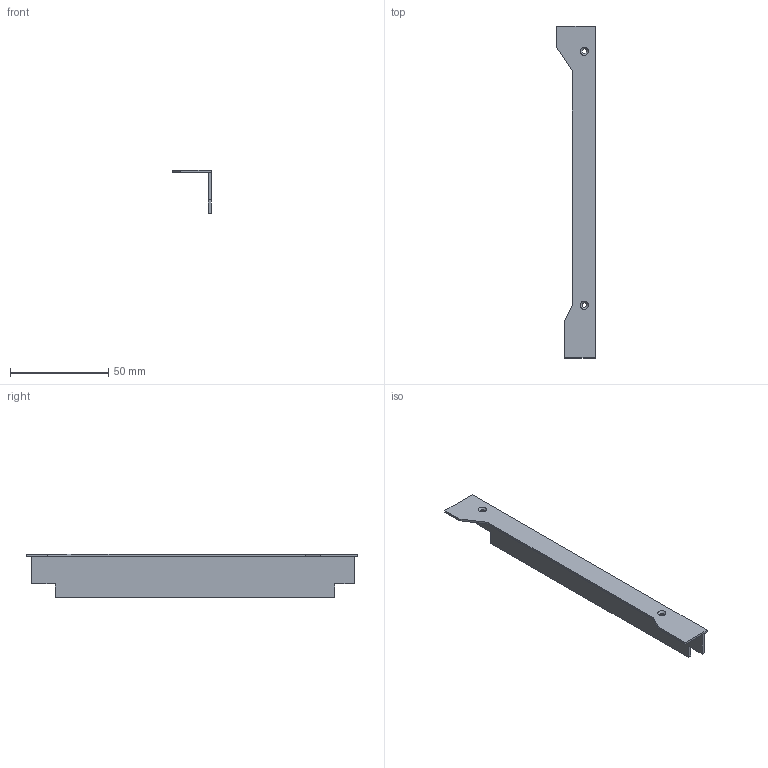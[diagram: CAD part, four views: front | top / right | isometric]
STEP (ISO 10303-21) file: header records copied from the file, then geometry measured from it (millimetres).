
FILE_DESCRIPTION(('Open CASCADE Model'),'2;1');
FILE_NAME('Open CASCADE Shape Model','2026-11-07T14:43:39',('Author'),( 'Open CASCADE'),'Open CASCADE STEP processor 7.9','Open CASCADE 7.9' ,'Unknown');
FILE_SCHEMA(('AUTOMOTIVE_DESIGN { 1 0 10303 214 1 1 1 1 }'));
Length unit declared in the file: millimetre
Products named in the file (1): Open CASCADE STEP translator 7.9 19
Bounding box: 19.7 x 168.7 x 22 mm (x, y, z)
Volume: 7870.2 mm3; surface area: 11420.8 mm2
Topology: 1 solids, 1 shells, 22 faces, 60 edges, 40 vertices
Faces by surface type: plane 18, cylinder 2, cone 2
Entity records: 1484 total; most frequent: CARTESIAN_POINT 285, DIRECTION 212, LINE 146, VECTOR 146, ORIENTED_EDGE 120, PCURVE 120, DEFINITIONAL_REPRESENTATION 120, EDGE_CURVE 60
